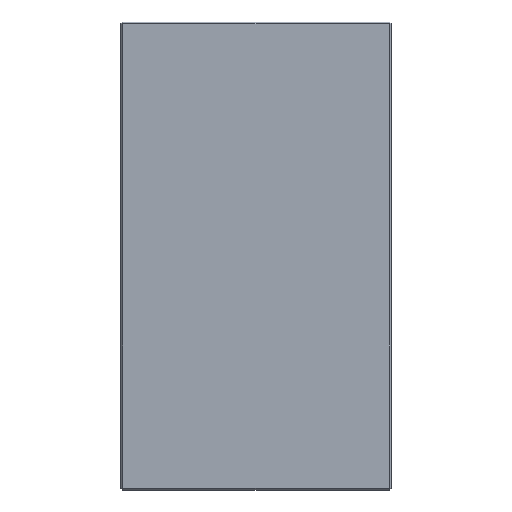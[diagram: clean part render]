
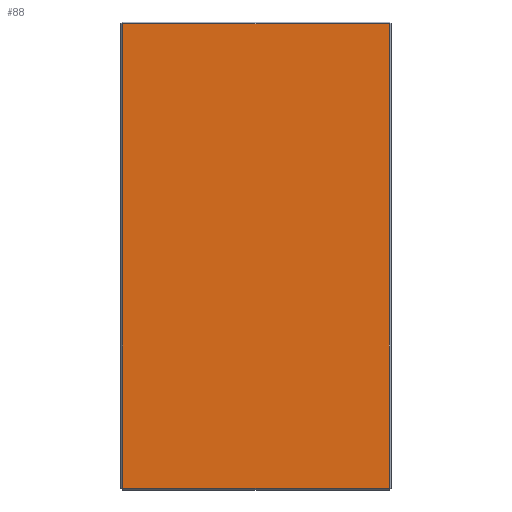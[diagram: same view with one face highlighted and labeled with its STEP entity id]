
A CAD part, top view. The second image highlights one B-rep face of the part: STEP entity #88.
In plain terms, the highlighted planar face has unit normal (0, 0, 1).
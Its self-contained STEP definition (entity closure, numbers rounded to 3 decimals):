
#22 = DIRECTION ( 'NONE',  ( 0., 0., 1. ) ) ;
#27 = DIRECTION ( 'NONE',  ( 1., 0., 0. ) ) ;
#40 = VERTEX_POINT ( 'NONE', #130 ) ;
#75 = VECTOR ( 'NONE', #208, 1000. ) ;
#81 = CARTESIAN_POINT ( 'NONE',  ( 0., 0., 17. ) ) ;
#88 = ADVANCED_FACE ( 'NONE', ( #619 ), #477, .T. ) ;
#104 = CARTESIAN_POINT ( 'NONE',  ( -70., -123., 17. ) ) ;
#111 = LINE ( 'NONE', #206, #618 ) ;
#130 = CARTESIAN_POINT ( 'NONE',  ( 70., -122., 17. ) ) ;
#144 = CARTESIAN_POINT ( 'NONE',  ( -71., 122., 17. ) ) ;
#153 = CARTESIAN_POINT ( 'NONE',  ( -70., 122., 17. ) ) ;
#162 = CARTESIAN_POINT ( 'NONE',  ( -70., -122., 17. ) ) ;
#165 = LINE ( 'NONE', #104, #275 ) ;
#206 = CARTESIAN_POINT ( 'NONE',  ( 71., -122., 17. ) ) ;
#208 = DIRECTION ( 'NONE',  ( 0., 1., 0. ) ) ;
#242 = LINE ( 'NONE', #349, #75 ) ;
#255 = CARTESIAN_POINT ( 'NONE',  ( 70., 122., 17. ) ) ;
#257 = ORIENTED_EDGE ( 'NONE', *, *, #483, .T. ) ;
#275 = VECTOR ( 'NONE', #302, 1000. ) ;
#288 = VERTEX_POINT ( 'NONE', #255 ) ;
#291 = ORIENTED_EDGE ( 'NONE', *, *, #357, .T. ) ;
#301 = VECTOR ( 'NONE', #535, 1000. ) ;
#302 = DIRECTION ( 'NONE',  ( 0., -1., 0. ) ) ;
#308 = ORIENTED_EDGE ( 'NONE', *, *, #615, .T. ) ;
#312 = LINE ( 'NONE', #144, #301 ) ;
#329 = EDGE_LOOP ( 'NONE', ( #443, #291, #257, #308 ) ) ;
#336 = DIRECTION ( 'NONE',  ( 1., 0., 0. ) ) ;
#349 = CARTESIAN_POINT ( 'NONE',  ( 70., 123., 17. ) ) ;
#357 = EDGE_CURVE ( 'NONE', #288, #614, #312, .T. ) ;
#413 = AXIS2_PLACEMENT_3D ( 'NONE', #81, #22, #336 ) ;
#443 = ORIENTED_EDGE ( 'NONE', *, *, #548, .T. ) ;
#470 = VERTEX_POINT ( 'NONE', #162 ) ;
#477 = PLANE ( 'NONE',  #413 ) ;
#483 = EDGE_CURVE ( 'NONE', #614, #470, #165, .T. ) ;
#535 = DIRECTION ( 'NONE',  ( -1., 0., 0. ) ) ;
#548 = EDGE_CURVE ( 'NONE', #40, #288, #242, .T. ) ;
#614 = VERTEX_POINT ( 'NONE', #153 ) ;
#615 = EDGE_CURVE ( 'NONE', #470, #40, #111, .T. ) ;
#618 = VECTOR ( 'NONE', #27, 1000. ) ;
#619 = FACE_OUTER_BOUND ( 'NONE', #329, .T. ) ;
